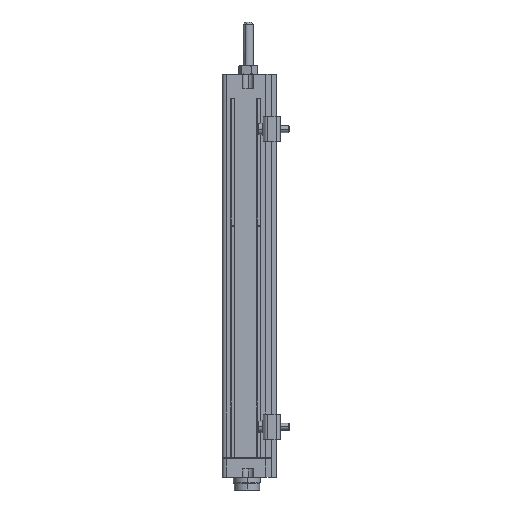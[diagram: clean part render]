
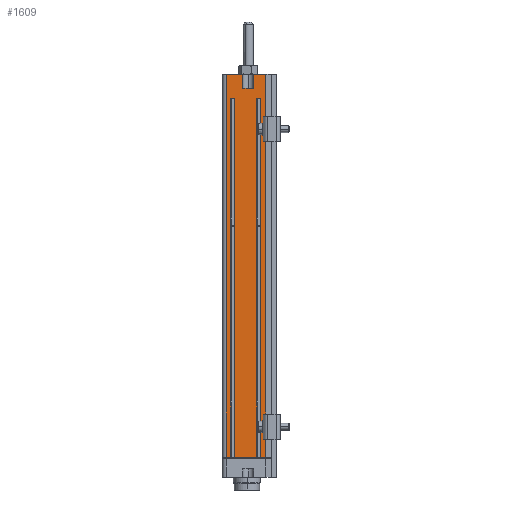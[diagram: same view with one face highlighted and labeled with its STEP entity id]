
A CAD part, left-side view. The second image highlights one B-rep face of the part: STEP entity #1609.
In plain terms, the highlighted planar face has unit normal (-1, 0, 0).
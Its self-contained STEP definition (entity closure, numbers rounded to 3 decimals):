
#1609=ADVANCED_FACE('',(#3447),#3448,.T.);
#3447=FACE_OUTER_BOUND('',#5604,.T.);
#3448=PLANE('',#5605);
#5604=EDGE_LOOP('',(#10249,#10250,#10251,#10252,#10253,#10254,#10255,#10256,#10257,#10258,#10259,#10260,#10261,#10262,#10263,#10264));
#5605=AXIS2_PLACEMENT_3D('',#10265,#10266,#10267);
#10249=ORIENTED_EDGE('',*,*,#13898,.F.);
#10250=ORIENTED_EDGE('',*,*,#13901,.T.);
#10251=ORIENTED_EDGE('',*,*,#13902,.T.);
#10252=ORIENTED_EDGE('',*,*,#13903,.T.);
#10253=ORIENTED_EDGE('',*,*,#13904,.F.);
#10254=ORIENTED_EDGE('',*,*,#13905,.T.);
#10255=ORIENTED_EDGE('',*,*,#13906,.T.);
#10256=ORIENTED_EDGE('',*,*,#13907,.T.);
#10257=ORIENTED_EDGE('',*,*,#13908,.F.);
#10258=ORIENTED_EDGE('',*,*,#13909,.T.);
#10259=ORIENTED_EDGE('',*,*,#13910,.T.);
#10260=ORIENTED_EDGE('',*,*,#13911,.F.);
#10261=ORIENTED_EDGE('',*,*,#13912,.F.);
#10262=ORIENTED_EDGE('',*,*,#13913,.F.);
#10263=ORIENTED_EDGE('',*,*,#13914,.T.);
#10264=ORIENTED_EDGE('',*,*,#13915,.F.);
#10265=CARTESIAN_POINT('',(0.0,27.0,-136.5));
#10266=DIRECTION('',(-1.0,0.0,0.0));
#10267=DIRECTION('',(0.0,0.0,1.0));
#13898=EDGE_CURVE('',#16978,#16980,#16981,.T.);
#13901=EDGE_CURVE('',#16978,#16984,#16985,.T.);
#13902=EDGE_CURVE('',#16984,#16986,#16987,.T.);
#13903=EDGE_CURVE('',#16986,#16988,#16989,.T.);
#13904=EDGE_CURVE('',#16990,#16988,#16991,.T.);
#13905=EDGE_CURVE('',#16990,#16992,#16993,.T.);
#13906=EDGE_CURVE('',#16992,#16994,#16995,.T.);
#13907=EDGE_CURVE('',#16994,#16996,#16997,.T.);
#13908=EDGE_CURVE('',#16998,#16996,#16999,.T.);
#13909=EDGE_CURVE('',#16998,#17000,#17001,.T.);
#13910=EDGE_CURVE('',#17000,#17002,#17003,.T.);
#13911=EDGE_CURVE('',#17004,#17002,#17005,.T.);
#13912=EDGE_CURVE('',#17006,#17004,#17007,.T.);
#13913=EDGE_CURVE('',#17008,#17006,#17009,.T.);
#13914=EDGE_CURVE('',#17008,#17010,#17011,.T.);
#13915=EDGE_CURVE('',#16980,#17010,#17012,.T.);
#16978=VERTEX_POINT('',#21448);
#16980=VERTEX_POINT('',#21450);
#16981=LINE('',#21451,#21452);
#16984=VERTEX_POINT('',#21455);
#16985=LINE('',#21456,#21457);
#16986=VERTEX_POINT('',#21458);
#16987=LINE('',#21459,#21460);
#16988=VERTEX_POINT('',#21461);
#16989=LINE('',#21462,#21463);
#16990=VERTEX_POINT('',#21464);
#16991=LINE('',#21465,#21466);
#16992=VERTEX_POINT('',#21467);
#16993=LINE('',#21468,#21469);
#16994=VERTEX_POINT('',#21470);
#16995=LINE('',#21471,#21472);
#16996=VERTEX_POINT('',#21473);
#16997=LINE('',#21474,#21475);
#16998=VERTEX_POINT('',#21476);
#16999=LINE('',#21477,#21478);
#17000=VERTEX_POINT('',#21479);
#17001=LINE('',#21480,#21481);
#17002=VERTEX_POINT('',#21482);
#17003=LINE('',#21483,#21484);
#17004=VERTEX_POINT('',#21485);
#17005=LINE('',#21486,#21487);
#17006=VERTEX_POINT('',#21488);
#17007=LINE('',#21489,#21490);
#17008=VERTEX_POINT('',#21491);
#17009=LINE('',#21492,#21493);
#17010=VERTEX_POINT('',#21494);
#17011=LINE('',#21495,#21496);
#17012=LINE('',#21497,#21498);
#21448=CARTESIAN_POINT('',(0.0,29.5,-136.5));
#21450=CARTESIAN_POINT('',(0.,29.5,90.3));
#21451=CARTESIAN_POINT('',(0.0,29.5,-136.5));
#21452=VECTOR('',#24948,226.8);
#21455=CARTESIAN_POINT('',(0.0,27.0,-136.5));
#21456=CARTESIAN_POINT('',(0.0,29.5,-136.5));
#21457=VECTOR('',#24952,2.5);
#21458=CARTESIAN_POINT('',(0.0,27.0,76.0));
#21459=CARTESIAN_POINT('',(0.0,27.0,-136.5));
#21460=VECTOR('',#24953,212.5);
#21461=CARTESIAN_POINT('',(0.0,24.4,76.0));
#21462=CARTESIAN_POINT('',(0.,27.0,76.0));
#21463=VECTOR('',#24954,2.6);
#21464=CARTESIAN_POINT('',(0.0,24.4,-136.5));
#21465=CARTESIAN_POINT('',(0.0,24.4,-136.5));
#21466=VECTOR('',#24955,212.5);
#21467=CARTESIAN_POINT('',(0.0,11.6,-136.5));
#21468=CARTESIAN_POINT('',(0.0,24.4,-136.5));
#21469=VECTOR('',#24956,12.8);
#21470=CARTESIAN_POINT('',(0.0,11.6,76.0));
#21471=CARTESIAN_POINT('',(0.0,11.6,-136.5));
#21472=VECTOR('',#24957,212.5);
#21473=CARTESIAN_POINT('',(0.0,9.,76.0));
#21474=CARTESIAN_POINT('',(0.,11.6,76.0));
#21475=VECTOR('',#24958,2.6);
#21476=CARTESIAN_POINT('',(0.0,9.0,-136.5));
#21477=CARTESIAN_POINT('',(0.0,9.0,-136.5));
#21478=VECTOR('',#24959,212.5);
#21479=CARTESIAN_POINT('',(0.0,6.0,-136.5));
#21480=CARTESIAN_POINT('',(0.0,9.0,-136.5));
#21481=VECTOR('',#24960,3.0);
#21482=CARTESIAN_POINT('',(0.,6.,90.3));
#21483=CARTESIAN_POINT('',(0.0,6.0,-136.5));
#21484=VECTOR('',#24961,226.8);
#21485=CARTESIAN_POINT('',(0.,13.25,90.3));
#21486=CARTESIAN_POINT('',(0.,13.25,90.3));
#21487=VECTOR('',#24962,7.25);
#21488=CARTESIAN_POINT('',(0.,13.25,82.0));
#21489=CARTESIAN_POINT('',(0.,13.25,82.0));
#21490=VECTOR('',#24963,8.3);
#21491=CARTESIAN_POINT('',(0.,19.75,82.0));
#21492=CARTESIAN_POINT('',(0.,19.75,82.0));
#21493=VECTOR('',#24964,6.5);
#21494=CARTESIAN_POINT('',(0.,19.75,90.3));
#21495=CARTESIAN_POINT('',(0.,19.75,82.0));
#21496=VECTOR('',#24965,8.3);
#21497=CARTESIAN_POINT('',(0.,29.5,90.3));
#21498=VECTOR('',#24966,9.75);
#24948=DIRECTION('',(0.0,0.0,1.0));
#24952=DIRECTION('',(0.0,-1.0,0.0));
#24953=DIRECTION('',(0.0,0.0,1.0));
#24954=DIRECTION('',(0.0,-1.0,0.0));
#24955=DIRECTION('',(0.0,0.0,1.0));
#24956=DIRECTION('',(0.0,-1.0,0.0));
#24957=DIRECTION('',(0.0,0.0,1.0));
#24958=DIRECTION('',(0.0,-1.0,0.0));
#24959=DIRECTION('',(0.0,0.0,1.0));
#24960=DIRECTION('',(0.0,-1.0,0.0));
#24961=DIRECTION('',(0.0,0.0,1.0));
#24962=DIRECTION('',(0.0,-1.0,0.0));
#24963=DIRECTION('',(0.0,0.0,1.0));
#24964=DIRECTION('',(0.0,-1.0,0.0));
#24965=DIRECTION('',(0.0,0.0,1.0));
#24966=DIRECTION('',(0.0,-1.0,0.0));
